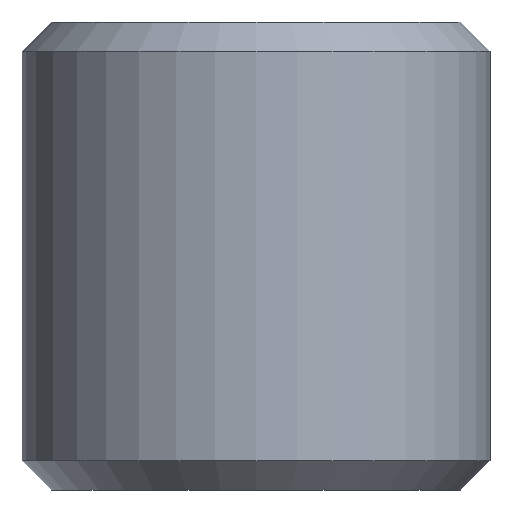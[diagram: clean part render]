
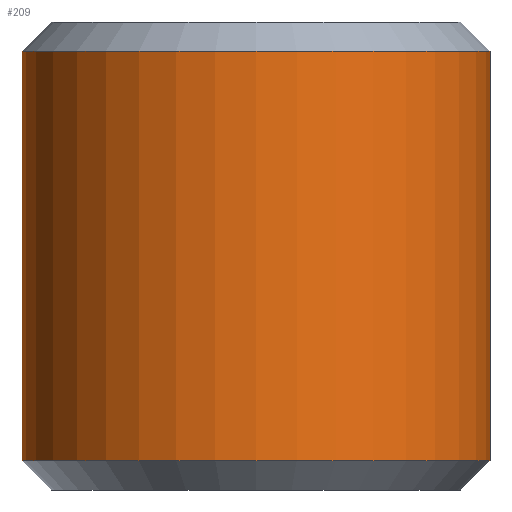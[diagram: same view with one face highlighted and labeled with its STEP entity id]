
A CAD part, left-side view. The second image highlights one B-rep face of the part: STEP entity #209.
In plain terms, the highlighted cylindrical face has radius 2 mm (diameter 4 mm), a partial arc.
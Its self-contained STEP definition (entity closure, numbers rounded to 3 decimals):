
#15=CYLINDRICAL_SURFACE('',#250,2.);
#20=CIRCLE('',#248,2.);
#21=CIRCLE('',#251,2.);
#33=FACE_OUTER_BOUND('',#47,.T.);
#47=EDGE_LOOP('',(#157,#158,#159,#160));
#65=LINE('',#357,#85);
#66=LINE('',#360,#86);
#85=VECTOR('',#292,10.);
#86=VECTOR('',#295,10.);
#99=VERTEX_POINT('',#335);
#103=VERTEX_POINT('',#347);
#105=VERTEX_POINT('',#356);
#106=VERTEX_POINT('',#358);
#122=EDGE_CURVE('',#99,#103,#20,.T.);
#125=EDGE_CURVE('',#105,#99,#65,.T.);
#126=EDGE_CURVE('',#106,#105,#21,.T.);
#127=EDGE_CURVE('',#103,#106,#66,.T.);
#157=ORIENTED_EDGE('',*,*,#122,.F.);
#158=ORIENTED_EDGE('',*,*,#125,.F.);
#159=ORIENTED_EDGE('',*,*,#126,.F.);
#160=ORIENTED_EDGE('',*,*,#127,.F.);
#209=ADVANCED_FACE('',(#33),#15,.T.);
#248=AXIS2_PLACEMENT_3D('',#351,#284,#285);
#250=AXIS2_PLACEMENT_3D('',#355,#290,#291);
#251=AXIS2_PLACEMENT_3D('',#359,#293,#294);
#284=DIRECTION('center_axis',(0.,0.,-1.));
#285=DIRECTION('ref_axis',(0.,-1.,0.));
#290=DIRECTION('center_axis',(0.,0.,-1.));
#291=DIRECTION('ref_axis',(0.,-1.,0.));
#292=DIRECTION('',(0.,0.,-1.));
#293=DIRECTION('center_axis',(0.,0.,1.));
#294=DIRECTION('ref_axis',(0.,-1.,0.));
#295=DIRECTION('',(0.,0.,1.));
#335=CARTESIAN_POINT('',(2.,-2.,-2.25));
#347=CARTESIAN_POINT('',(2.,2.,-2.25));
#351=CARTESIAN_POINT('Origin',(2.,0.,-2.25));
#355=CARTESIAN_POINT('Origin',(2.,0.,0.));
#356=CARTESIAN_POINT('',(2.,-2.,1.25));
#357=CARTESIAN_POINT('',(2.,-2.,0.));
#358=CARTESIAN_POINT('',(2.,2.,1.25));
#359=CARTESIAN_POINT('Origin',(2.,0.,1.25));
#360=CARTESIAN_POINT('',(2.,2.,0.));
